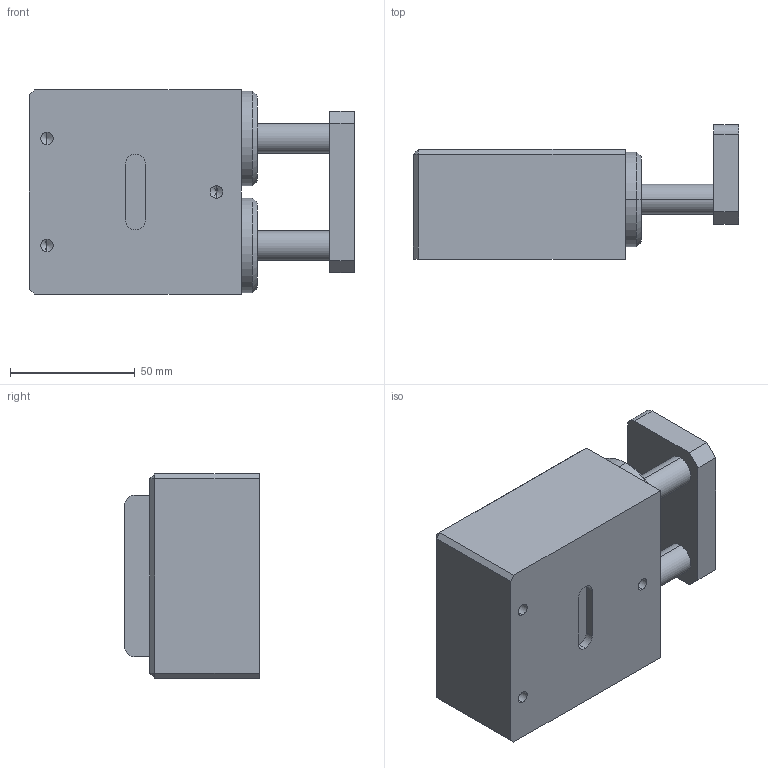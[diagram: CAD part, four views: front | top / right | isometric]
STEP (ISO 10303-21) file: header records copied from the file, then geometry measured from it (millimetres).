
FILE_DESCRIPTION (( 'STEP AP203' ), '1' );
FILE_NAME ('DBSQ-170-Ausgefahren.STEP', '2015-05-19T08:59:46', ( 'test' ), ( '' ), 'SwSTEP 2.0', 'SolidWorks 2015', '' );
FILE_SCHEMA (( 'CONFIG_CONTROL_DESIGN' ));
Length unit declared in the file: millimetre
Products named in the file (1): DBSQ-170-Ausgefahren
Bounding box: 130.44 x 54 x 82 mm (x, y, z)
Volume: 349702.6 mm3; surface area: 41125.4 mm2
Topology: 2 solids, 2 shells, 128 faces, 296 edges, 182 vertices
Faces by surface type: plane 61, cylinder 43, cone 24
Entity records: 3617 total; most frequent: DIRECTION 640, CARTESIAN_POINT 607, ORIENTED_EDGE 568, EDGE_CURVE 284, AXIS2_PLACEMENT_3D 231, VERTEX_POINT 182, LINE 178, VECTOR 178
